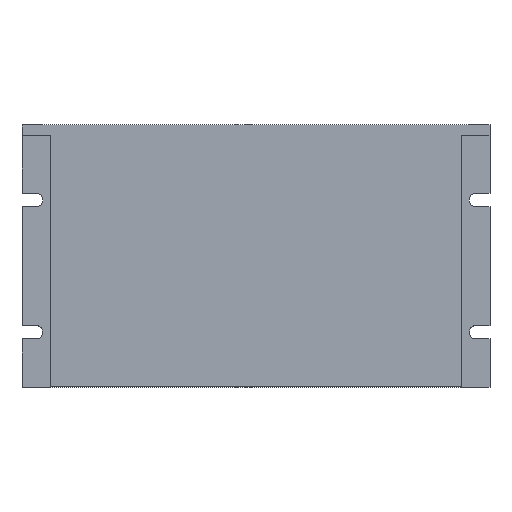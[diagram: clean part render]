
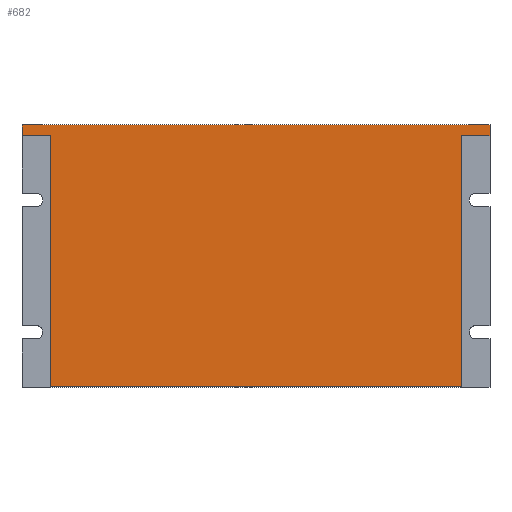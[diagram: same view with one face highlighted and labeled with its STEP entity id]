
A CAD part, top view. The second image highlights one B-rep face of the part: STEP entity #682.
In plain terms, the highlighted planar face has unit normal (0, 0, 1).
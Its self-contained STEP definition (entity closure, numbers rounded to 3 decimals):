
#42 = VECTOR ( 'NONE', #1082, 1000. ) ;
#43 = LINE ( 'NONE', #436, #512 ) ;
#85 = VECTOR ( 'NONE', #341, 1000. ) ;
#98 = DIRECTION ( 'NONE',  ( -1., 0., 0. ) ) ;
#139 = CARTESIAN_POINT ( 'NONE',  ( -87.5, -49., 33. ) ) ;
#195 = CARTESIAN_POINT ( 'NONE',  ( -87.5, 45., 33. ) ) ;
#218 = EDGE_CURVE ( 'NONE', #1030, #910, #290, .T. ) ;
#221 = VERTEX_POINT ( 'NONE', #195 ) ;
#223 = EDGE_CURVE ( 'NONE', #1030, #1010, #595, .T. ) ;
#227 = CARTESIAN_POINT ( 'NONE',  ( -87.5, 49., 33. ) ) ;
#234 = CARTESIAN_POINT ( 'NONE',  ( 0., 0., 33. ) ) ;
#258 = CARTESIAN_POINT ( 'NONE',  ( -77., -49., 33. ) ) ;
#287 = DIRECTION ( 'NONE',  ( 0., -1., 0. ) ) ;
#290 = LINE ( 'NONE', #695, #42 ) ;
#307 = DIRECTION ( 'NONE',  ( 0., -1., 0. ) ) ;
#341 = DIRECTION ( 'NONE',  ( -1., 0., 0. ) ) ;
#354 = AXIS2_PLACEMENT_3D ( 'NONE', #234, #633, #1024 ) ;
#388 = VECTOR ( 'NONE', #98, 1000. ) ;
#392 = CARTESIAN_POINT ( 'NONE',  ( 77., -49., 33. ) ) ;
#410 = VERTEX_POINT ( 'NONE', #258 ) ;
#411 = CARTESIAN_POINT ( 'NONE',  ( 87.5, 45., 33. ) ) ;
#432 = VECTOR ( 'NONE', #534, 1000. ) ;
#434 = VECTOR ( 'NONE', #287, 1000. ) ;
#436 = CARTESIAN_POINT ( 'NONE',  ( -87.5, -49., 33. ) ) ;
#452 = LINE ( 'NONE', #848, #460 ) ;
#460 = VECTOR ( 'NONE', #1237, 1000. ) ;
#471 = ORIENTED_EDGE ( 'NONE', *, *, #946, .F. ) ;
#512 = VECTOR ( 'NONE', #835, 1000. ) ;
#534 = DIRECTION ( 'NONE',  ( 0., -1., 0. ) ) ;
#578 = EDGE_CURVE ( 'NONE', #647, #221, #1027, .T. ) ;
#595 = LINE ( 'NONE', #983, #388 ) ;
#613 = CARTESIAN_POINT ( 'NONE',  ( -77., 45., 33. ) ) ;
#614 = ORIENTED_EDGE ( 'NONE', *, *, #1177, .T. ) ;
#633 = DIRECTION ( 'NONE',  ( 0., 0., -1. ) ) ;
#647 = VERTEX_POINT ( 'NONE', #227 ) ;
#682 = ADVANCED_FACE ( 'NONE', ( #734 ), #1118, .F. ) ;
#684 = CARTESIAN_POINT ( 'NONE',  ( 87.5, 49., 33. ) ) ;
#691 = EDGE_CURVE ( 'NONE', #410, #959, #43, .T. ) ;
#695 = CARTESIAN_POINT ( 'NONE',  ( 87.5, -49., 33. ) ) ;
#723 = ORIENTED_EDGE ( 'NONE', *, *, #691, .T. ) ;
#734 = FACE_OUTER_BOUND ( 'NONE', #1219, .T. ) ;
#770 = EDGE_CURVE ( 'NONE', #1182, #221, #452, .T. ) ;
#786 = LINE ( 'NONE', #1171, #434 ) ;
#801 = ORIENTED_EDGE ( 'NONE', *, *, #223, .F. ) ;
#807 = LINE ( 'NONE', #1194, #1261 ) ;
#835 = DIRECTION ( 'NONE',  ( 1., 0., 0. ) ) ;
#838 = LINE ( 'NONE', #1225, #85 ) ;
#848 = CARTESIAN_POINT ( 'NONE',  ( -87.5, 45., 33. ) ) ;
#857 = ORIENTED_EDGE ( 'NONE', *, *, #1066, .T. ) ;
#877 = ORIENTED_EDGE ( 'NONE', *, *, #770, .F. ) ;
#910 = VERTEX_POINT ( 'NONE', #684 ) ;
#946 = EDGE_CURVE ( 'NONE', #1010, #959, #786, .T. ) ;
#959 = VERTEX_POINT ( 'NONE', #392 ) ;
#983 = CARTESIAN_POINT ( 'NONE',  ( 87.5, 45., 33. ) ) ;
#1010 = VERTEX_POINT ( 'NONE', #1094 ) ;
#1024 = DIRECTION ( 'NONE',  ( -1., 0., 0. ) ) ;
#1027 = LINE ( 'NONE', #139, #432 ) ;
#1030 = VERTEX_POINT ( 'NONE', #411 ) ;
#1066 = EDGE_CURVE ( 'NONE', #910, #647, #838, .T. ) ;
#1082 = DIRECTION ( 'NONE',  ( 0., 1., 0. ) ) ;
#1094 = CARTESIAN_POINT ( 'NONE',  ( 77., 45., 33. ) ) ;
#1095 = ORIENTED_EDGE ( 'NONE', *, *, #218, .T. ) ;
#1118 = PLANE ( 'NONE',  #354 ) ;
#1123 = ORIENTED_EDGE ( 'NONE', *, *, #578, .T. ) ;
#1171 = CARTESIAN_POINT ( 'NONE',  ( 77., 45., 33. ) ) ;
#1177 = EDGE_CURVE ( 'NONE', #1182, #410, #807, .T. ) ;
#1182 = VERTEX_POINT ( 'NONE', #613 ) ;
#1194 = CARTESIAN_POINT ( 'NONE',  ( -77., 45., 33. ) ) ;
#1219 = EDGE_LOOP ( 'NONE', ( #877, #614, #723, #471, #801, #1095, #857, #1123 ) ) ;
#1225 = CARTESIAN_POINT ( 'NONE',  ( -87.5, 49., 33. ) ) ;
#1237 = DIRECTION ( 'NONE',  ( -1., 0., 0. ) ) ;
#1261 = VECTOR ( 'NONE', #307, 1000. ) ;
